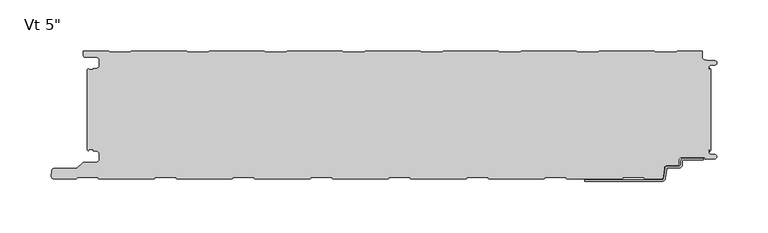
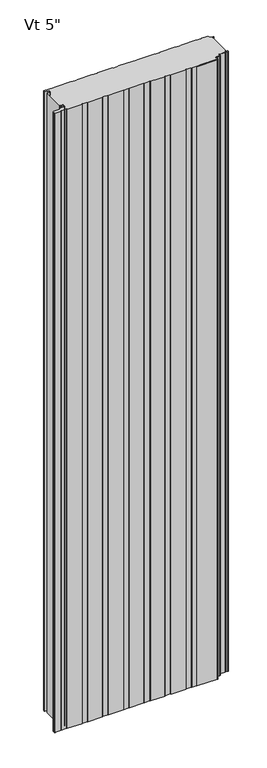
"""IFC4 building model written with IfcOpenShell, lengths in millimetres: plate geometry."""

import ifcopenshell
import ifcopenshell.guid

model = None  # the IFC model being written
_history = None  # IfcOwnerHistory: only IFC2X3 demands one
_inside = {}  # id of a spatial element -> (the spatial element, [elements in it])
_under = {}  # id of a project, library or spatial element -> (it, [spatial elements below it])
_declared = {}  # id of a project -> (the project, [libraries it declares])
_typed = {}  # id of a type object -> (the type object, [elements of that type])
_made_of = {}  # id of a material, layer set ... -> (it, [elements and type objects made of it])


def new_model(schema):
    """Start an empty IFC model of exactly this schema.

    Asked for "IFC4X3", IfcOpenShell would pick the latest addendum, in which some entities
    have other attributes; the version numbers below select the first issue.
    IFC2X3 requires an IfcOwnerHistory on every rooted entity: one is made here for all.
    """
    global model, _history
    if schema == "IFC4X3":
        model = ifcopenshell.file(schema_version=(4, 3, 0, 0))
    else:
        model = ifcopenshell.file(schema=schema)
    _inside.clear()
    _under.clear()
    _declared.clear()
    _typed.clear()
    _made_of.clear()
    _history = None
    if model.schema == "IFC2X3":
        org = make("IfcOrganization", Name="unknown")
        user = make(
            "IfcPersonAndOrganization",
            ThePerson=make("IfcPerson", FamilyName="unknown"),
            TheOrganization=org,
        )
        app = make(
            "IfcApplication",
            ApplicationDeveloper=org,
            Version="unknown",
            ApplicationFullName="unknown",
            ApplicationIdentifier="unknown",
        )
        _history = make(
            "IfcOwnerHistory",
            OwningUser=user,
            OwningApplication=app,
            ChangeAction="ADDED",
            CreationDate=0,
        )
    return model


def make(cls, **values):
    """One entity of the class cls with the attributes given. An attribute that is None is left unset."""
    return model.create_entity(
        cls, **{name: value for name, value in values.items() if value is not None}
    )


def rooted(cls, **values):
    """An entity with a GlobalId (a new one), such as an element, a storey or a relation."""
    return make(cls, GlobalId=ifcopenshell.guid.new(), OwnerHistory=_history, **values)


def si_unit(unit_type, name, prefix=None):
    """IfcSIUnit, for example si_unit("LENGTHUNIT", "METRE", prefix="MILLI")."""
    return make("IfcSIUnit", UnitType=unit_type, Prefix=prefix, Name=name)


def assignment(units):
    """IfcUnitAssignment: the units of a project."""
    return None if units is None else make("IfcUnitAssignment", Units=units)


def point(xyz):
    """IfcCartesianPoint."""
    return None if xyz is None else make("IfcCartesianPoint", Coordinates=xyz)


def direction(xyz):
    """IfcDirection."""
    return None if xyz is None else make("IfcDirection", DirectionRatios=xyz)


def frame(location, z_axis=None, x_axis=None):
    """IfcAxis2Placement3D, a coordinate frame: its origin and axes. An axis left out is left unset."""
    return make(
        "IfcAxis2Placement3D",
        Location=point(location),
        Axis=direction(z_axis),
        RefDirection=direction(x_axis),
    )


def frame_2d(location, x_axis=None):
    """IfcAxis2Placement2D, a coordinate frame in the plane: its origin and x axis."""
    return make(
        "IfcAxis2Placement2D", Location=point(location), RefDirection=direction(x_axis)
    )


def origin():
    """The frame at (0, 0, 0) with its axes left unset."""
    return frame((0.0, 0.0, 0.0))


def origin_with_axes():
    """The frame at (0, 0, 0) with the z axis (0, 0, 1) and the x axis (1, 0, 0) written out."""
    return frame((0.0, 0.0, 0.0), z_axis=(0.0, 0.0, 1.0), x_axis=(1.0, 0.0, 0.0))


def place(relative_to, where):
    """IfcLocalPlacement: puts the frame where relative to a parent placement (None: the world)."""
    return make(
        "IfcLocalPlacement", PlacementRelTo=relative_to, RelativePlacement=where
    )


def context(
    kind, dimensions, precision=None, world=None, true_north=None, identifier=None
):
    """IfcGeometricRepresentationContext, for example the 3D "Model" context."""
    return make(
        "IfcGeometricRepresentationContext",
        ContextIdentifier=identifier,
        ContextType=kind,
        CoordinateSpaceDimension=dimensions,
        Precision=precision,
        WorldCoordinateSystem=world,
        TrueNorth=true_north,
    )


def project(units=None, contexts=None):
    """IfcProject with its units and contexts."""
    return rooted(
        "IfcProject",
        Name="project",
        RepresentationContexts=contexts,
        UnitsInContext=assignment(units),
    )


def spatial(cls, under=None, at=None, **own):
    """A site, building, storey or space (cls), placed at a placement, below another one or the project."""
    s = rooted(cls, ObjectPlacement=at, **own)
    if under is not None:
        _under.setdefault(under.id(), (under, []))[1].append(s)
    return s


def polyline(points):
    """IfcPolyline through the points."""
    return make("IfcPolyline", Points=[point(p) for p in points])


def circle_curve(where, radius):
    """IfcCircle in the frame where."""
    return make("IfcCircle", Position=where, Radius=radius)


def trimmed(basis, trim1, trim2, sense, master):
    """IfcTrimmedCurve: the piece of a basis curve between two trims."""
    return make(
        "IfcTrimmedCurve",
        BasisCurve=basis,
        Trim1=trim1,
        Trim2=trim2,
        SenseAgreement=sense,
        MasterRepresentation=master,
    )


def segment(curve, same_sense, transition):
    """IfcCompositeCurveSegment."""
    return make(
        "IfcCompositeCurveSegment",
        Transition=transition,
        SameSense=same_sense,
        ParentCurve=curve,
    )


def composite_curve(segments, self_intersect=None):
    """IfcCompositeCurve: segments joined end to end."""
    return make("IfcCompositeCurve", Segments=segments, SelfIntersect=self_intersect)


def outline(outer, holes=None, kind="AREA"):
    """IfcArbitraryClosedProfileDef: a profile drawn as a closed curve; with holes, ...WithVoids."""
    if holes is None:
        return make("IfcArbitraryClosedProfileDef", ProfileType=kind, OuterCurve=outer)
    return make(
        "IfcArbitraryProfileDefWithVoids",
        ProfileType=kind,
        OuterCurve=outer,
        InnerCurves=holes,
    )


def extrude(swept, where, along, depth):
    """IfcExtrudedAreaSolid: the profile swept, set in the frame where, extruded along a direction by depth."""
    return make(
        "IfcExtrudedAreaSolid",
        SweptArea=swept,
        Position=where,
        ExtrudedDirection=direction(along),
        Depth=depth,
    )


def shape(context_of_items, identifier, shape_type, items):
    """IfcShapeRepresentation: the items that make up one representation, for example the "Body"."""
    return make(
        "IfcShapeRepresentation",
        ContextOfItems=context_of_items,
        RepresentationIdentifier=identifier,
        RepresentationType=shape_type,
        Items=items,
    )


def source(mapping_origin, context_of_items, identifier, shape_type, items):
    """IfcRepresentationMap: a shape defined once, which mapped items show again and again."""
    return make(
        "IfcRepresentationMap",
        MappingOrigin=mapping_origin,
        MappedRepresentation=shape(context_of_items, identifier, shape_type, items),
    )


def transform(
    local_origin,
    x_axis=None,
    y_axis=None,
    z_axis=None,
    scale=None,
    scale2=None,
    scale3=None,
    uniform=True,
):
    """IfcCartesianTransformationOperator3D, or its non-uniform kind. x_axis, y_axis, z_axis: its Axis1, 2, 3."""
    if uniform:
        return make(
            "IfcCartesianTransformationOperator3D",
            Axis1=direction(x_axis),
            Axis2=direction(y_axis),
            LocalOrigin=point(local_origin),
            Scale=scale,
            Axis3=direction(z_axis),
        )
    return make(
        "IfcCartesianTransformationOperator3DnonUniform",
        Axis1=direction(x_axis),
        Axis2=direction(y_axis),
        LocalOrigin=point(local_origin),
        Scale=scale,
        Axis3=direction(z_axis),
        Scale2=scale2,
        Scale3=scale3,
    )


def mapped(mapping_source, mapping_target):
    """IfcMappedItem: shows the shape of a source again, moved by a transform."""
    return make(
        "IfcMappedItem", MappingSource=mapping_source, MappingTarget=mapping_target
    )


def made_of(thing, what):
    """Note that an element or type object is made of a material, layer set ...; save() writes the relation."""
    if what is not None:
        _made_of.setdefault(what.id(), (what, []))[1].append(thing)
    return thing


def element(
    cls,
    number,
    at=None,
    inside=None,
    cuts=None,
    type_object=None,
    material=None,
    context=None,
    identifier="Body",
    shape_type=None,
    held_by="IfcProductDefinitionShape",
    body=None,
    shapes=None,
    **own,
):
    """One element of the class cls, such as IfcWall. Its Tag is "e" and its number.

    at: its placement. inside: the storey or other place that contains it. cuts: it is an
    opening in that element (IfcRelVoidsElement). A single representation is given by context,
    identifier, shape_type and body (its items); several are given by shapes. held_by: the class
    of the entity that holds the representations. save() writes the other relations.
    """
    e = rooted(cls, Tag="e%d" % number, ObjectPlacement=at, **own)
    if body is not None:
        shapes = [shape(context, identifier, shape_type, body)]
    if shapes is not None:
        e.Representation = make(held_by, Representations=shapes)
    if inside is not None:
        _inside.setdefault(inside.id(), (inside, []))[1].append(e)
    if cuts is not None:
        rooted(
            "IfcRelVoidsElement", RelatingBuildingElement=cuts, RelatedOpeningElement=e
        )
    if type_object is not None:
        _typed.setdefault(type_object.id(), (type_object, []))[1].append(e)
    return made_of(e, material)


def aggregate(whole, parts):
    """IfcRelAggregates: a whole, such as a stair, and the parts it consists of."""
    return rooted("IfcRelAggregates", RelatingObject=whole, RelatedObjects=parts)


def save(model, path):
    """Write the relations noted so far, then the file.

    IfcRelAggregates (storeys below a building ...), IfcRelContainedInSpatialStructure (elements
    in a storey), IfcRelDefinesByType, IfcRelAssociatesMaterial and IfcRelDeclares: one each for
    every whole, place, type object, material and project.
    """
    for whole, parts in _under.values():
        aggregate(whole, parts)
    for where, things in _inside.values():
        rooted(
            "IfcRelContainedInSpatialStructure",
            RelatedElements=things,
            RelatingStructure=where,
        )
    for kind, things in _typed.values():
        rooted("IfcRelDefinesByType", RelatedObjects=things, RelatingType=kind)
    for what, things in _made_of.values():
        rooted("IfcRelAssociatesMaterial", RelatedObjects=things, RelatingMaterial=what)
    for by, libraries in _declared.values():
        rooted("IfcRelDeclares", RelatingContext=by, RelatedDefinitions=libraries)
    model.write(path)


def plane_surface(at):
    """IfcPlane: the flat surface through the origin of the frame at, square to its z axis."""
    return make("IfcPlane", Position=at)


def cylinder_surface(at, radius):
    """IfcCylindricalSurface: all points at the distance radius from the z axis of the frame at."""
    return make("IfcCylindricalSurface", Position=at, Radius=radius)


def revolved_surface(curve, axis_point, axis_direction):
    """IfcSurfaceOfRevolution: the curve turned about the line through axis_point along axis_direction."""
    return make(
        "IfcSurfaceOfRevolution",
        SweptCurve=make("IfcArbitraryOpenProfileDef", ProfileType="CURVE", Curve=curve),
        AxisPosition=make("IfcAxis1Placement", Location=point(axis_point), Axis=direction(axis_direction)),
    )


def advanced_brep(points, edges, surfaces, faces):
    """IfcAdvancedBrep: a solid bounded by faces that lie on surfaces and meet in shared edges.

    An edge is (start, end): straight between two places in points (the first is 0);
    or (start, end, curve); or (start, end, curve, False) where it runs against its curve.
    A face is (place in surfaces, loops), or (place, loops, False) where it looks against
    its surface's normal. A loop lists edges by number (the first is 1), with a minus sign
    where the edge is run from its end to its start. The first loop is the outer one.
    """
    corners = [point(p) for p in points]
    vertices = [make("IfcVertexPoint", VertexGeometry=c) for c in corners]
    made = []
    for start, end, *more in edges:
        made.append(
            make(
                "IfcEdgeCurve",
                EdgeStart=vertices[start],
                EdgeEnd=vertices[end],
                EdgeGeometry=more[0] if more else make("IfcPolyline", Points=[corners[start], corners[end]]),
                SameSense=more[1] if len(more) > 1 else True,
            )
        )
    hull = []
    for where, loops, *sense in faces:
        bounds = []
        for j, loop in enumerate(loops):
            ring = [make("IfcOrientedEdge", EdgeElement=made[abs(k) - 1], Orientation=k > 0) for k in loop]
            bounds.append(
                make(
                    "IfcFaceOuterBound" if j == 0 else "IfcFaceBound",
                    Bound=make("IfcEdgeLoop", EdgeList=ring),
                    Orientation=True,
                )
            )
        hull.append(make("IfcAdvancedFace", Bounds=bounds, FaceSurface=surfaces[where], SameSense=sense[0] if sense else True))
    return make("IfcAdvancedBrep", Outer=make("IfcClosedShell", CfsFaces=hull))


def plate_12433003(model_context):
    return source(origin(), model_context, "Body", "SolidModel", [
        advanced_brep(
        [(278.4543181, -105.9008679, 0.0), (297.1995181, -105.9008679, 0.0), (297.1995181, -107.4248679, 0.0), (278.4543181, -107.4248679, 0.0), (276.9303181, -108.9488679, 0.0), (276.9303181, -112.0476679, 0.0), (273.4759181, -115.5020679, 0.0), (262.2633607, -115.5020679, 0.0), (261.5042604, -116.1976552, 0.0), (260.3094328, -125.7416507, 0.0), (257.2730313, -128.524, 0.0), (181.7057181, -128.5360323, 0.0), (181.7057181, -127.0, 0.0), (257.2730313, -127.0, 0.0), (258.7912321, -125.6088254, 0.0), (259.9860597, -116.0648299, 0.0), (262.2633607, -113.9780679, 0.0), (273.4759181, -113.9780679, 0.0), (275.4063181, -112.0476679, 0.0), (275.4063181, -108.9488679, 0.0), (278.4543181, -105.9008679, 2400.0), (275.4063181, -108.9488679, 2400.0), (275.4063181, -112.0476679, 2400.0), (273.4759181, -113.9780679, 2400.0), (262.2633607, -113.9780679, 2400.0), (259.9860597, -116.0648299, 2400.0), (258.7912321, -125.6088254, 2400.0), (257.2730313, -127.0, 2400.0), (181.7057181, -127.0, 2400.0), (181.7057181, -128.5360323, 2400.0), (257.2730313, -128.5360323, 2400.0), (260.3094328, -125.7416507, 2400.0), (261.5042604, -116.1976552, 2400.0), (262.2633607, -115.5020679, 2400.0), (273.4759181, -115.5020679, 2400.0), (276.9303181, -112.0476679, 2400.0), (276.9303181, -108.9488679, 2400.0), (278.4543181, -107.4248679, 2400.0), (297.1995181, -107.4248679, 2400.0), (297.1995181, -105.9008679, 2400.0)],
        [
            (0, 1),
            (1, 2),
            (2, 3),
            (3, 4, circle_curve(frame((278.4543181, -108.9488679, 0.0), z_axis=(0.0, 0.0, 1.0), x_axis=(0.0, 1.0, 0.0)), 1.524)),
            (4, 5),
            (5, 6, circle_curve(frame((273.4759181, -112.0476679, 0.0), z_axis=(0.0, 0.0, -1.0), x_axis=(0.0, 1.0, 0.0)), 3.4544)),
            (6, 7),
            (7, 8, circle_curve(frame((262.2633607, -116.2640679, 0.0), z_axis=(0.0, 0.0, 1.0), x_axis=(0.0, 1.0, 0.0)), 0.762)),
            (8, 9),
            (9, 10, circle_curve(frame((257.2730313, -125.476, 0.0), z_axis=(0.0, 0.0, -1.0), x_axis=(0.0, 1.0, 0.0)), 3.048)),
            (10, 11),
            (11, 12),
            (12, 13),
            (13, 14, circle_curve(frame((257.2730313, -125.476, 0.0), z_axis=(0.0, 0.0, 1.0), x_axis=(0.0, 1.0, 0.0)), 1.524)),
            (14, 15),
            (15, 16, circle_curve(frame((262.2633607, -116.2640679, 0.0), z_axis=(0.0, 0.0, -1.0), x_axis=(0.0, 1.0, 0.0)), 2.286)),
            (16, 17),
            (17, 18, circle_curve(frame((273.4759181, -112.0476679, 0.0), z_axis=(0.0, 0.0, 1.0), x_axis=(0.0, 1.0, 0.0)), 1.9304)),
            (18, 19),
            (19, 0, circle_curve(frame((278.4543181, -108.9488679, 0.0), z_axis=(0.0, 0.0, -1.0), x_axis=(0.0, 1.0, 0.0)), 3.048)),
            (20, 21, circle_curve(frame((278.4543181, -108.9488679, 2400.0), z_axis=(0.0, 0.0, 1.0), x_axis=(0.0, 1.0, 0.0)), 3.048)),
            (21, 22),
            (22, 23, circle_curve(frame((273.4759181, -112.0476679, 2400.0), z_axis=(0.0, 0.0, -1.0), x_axis=(0.0, 1.0, 0.0)), 1.9304)),
            (23, 24),
            (24, 25, circle_curve(frame((262.2633607, -116.2640679, 2400.0), z_axis=(0.0, 0.0, 1.0), x_axis=(0.0, 1.0, 0.0)), 2.286)),
            (25, 26),
            (26, 27, circle_curve(frame((257.2730313, -125.476, 2400.0), z_axis=(0.0, 0.0, -1.0), x_axis=(0.0, 1.0, 0.0)), 1.524)),
            (27, 28),
            (28, 29),
            (29, 30),
            (30, 31, circle_curve(frame((257.2730313, -125.476, 2400.0), z_axis=(0.0, 0.0, 1.0), x_axis=(0.0, 1.0, 0.0)), 3.048)),
            (31, 32),
            (32, 33, circle_curve(frame((262.2633607, -116.2640679, 2400.0), z_axis=(0.0, 0.0, -1.0), x_axis=(0.0, 1.0, 0.0)), 0.762)),
            (33, 34),
            (34, 35, circle_curve(frame((273.4759181, -112.0476679, 2400.0), z_axis=(0.0, 0.0, 1.0), x_axis=(0.0, 1.0, 0.0)), 3.4544)),
            (35, 36),
            (36, 37, circle_curve(frame((278.4543181, -108.9488679, 2400.0), z_axis=(0.0, 0.0, -1.0), x_axis=(0.0, 1.0, 0.0)), 1.524)),
            (37, 38),
            (38, 39),
            (39, 20),
            (2, 38),
            (37, 3),
            (15, 25),
            (24, 16),
            (7, 33),
            (32, 8),
            (5, 35),
            (34, 6),
            (1, 39),
            (36, 4),
            (9, 31),
            (30, 10),
            (13, 27),
            (26, 14),
            (0, 20),
            (12, 28),
            (29, 11),
            (23, 17),
            (18, 22),
            (21, 19),
        ],
        [
            plane_surface(frame((297.1995181, -127.0, 0.0), z_axis=(0.0, 0.0, -1.0), x_axis=(-1.0, 0.0, 0.0))),
            plane_surface(frame((297.1995181, -127.0, 2400.0), z_axis=(0.0, 0.0, 1.0), x_axis=(-1.0, 0.0, 0.0))),
            plane_surface(frame((278.4543181, -107.4248679, 0.0), z_axis=(0.0, -1.0, 0.0), x_axis=(0.0, 0.0, 1.0))),
            cylinder_surface(frame((262.2633607, -116.2640679, 0.0), z_axis=(0.0, 0.0, -1.0), x_axis=(0.0, 1.0, 0.0)), 2.286),
            revolved_surface(polyline([(262.2633607, -115.5020679, 2400.0), (262.2633607, -115.5020679, 0.0)]), (262.2633607, -116.2640679, 0.0), (0.0, 0.0, 1.0)),
            cylinder_surface(frame((273.4759181, -112.0476679, 0.0), z_axis=(0.0, 0.0, -1.0), x_axis=(0.0, 1.0, 0.0)), 3.4544),
            plane_surface(frame((297.1995181, -107.4248679, 0.0), z_axis=(1.0, 0.0, 0.0), x_axis=(0.0, 0.0, 1.0))),
            revolved_surface(polyline([(278.4543181, -107.4248679, 2400.0), (278.4543181, -107.4248679, 0.0)]), (278.4543181, -108.9488679, 0.0), (0.0, 0.0, 1.0)),
            cylinder_surface(frame((257.2730313, -125.476, 0.0), z_axis=(0.0, 0.0, -1.0), x_axis=(0.0, 1.0, 0.0)), 3.048),
            revolved_surface(polyline([(257.2730313, -123.952, 2400.0), (257.2730313, -123.952, 0.0)]), (257.2730313, -125.476, 0.0), (0.0, 0.0, 1.0)),
            plane_surface(frame((297.1995181, -105.9008679, 0.0), z_axis=(0.0, 1.0, 0.0), x_axis=(0.0, 0.0, 1.0))),
            plane_surface(frame((259.9860597, -116.0648299, 0.0), z_axis=(-0.992254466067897, 0.12422187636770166, 0.0), x_axis=(0.0, 0.0, 1.0))),
            plane_surface(frame((257.2730313, -127.0, 0.0), z_axis=(0.0, 1.0, 0.0), x_axis=(0.0, 0.0, 1.0))),
            plane_surface(frame((260.3094328, -125.7416507, 0.0), z_axis=(0.9922544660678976, -0.12422187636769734, 0.0), x_axis=(0.0, 0.0, 1.0))),
            plane_surface(frame((276.9303181, -112.0476679, 0.0), z_axis=(1.0, 0.0, 0.0), x_axis=(0.0, 0.0, 1.0))),
            plane_surface(frame((181.7057181, -128.5360323, 0.0), z_axis=(0.0, -1.0, 0.0), x_axis=(0.0, 0.0, 1.0))),
            plane_surface(frame((181.7057181, -127.0, 0.0), z_axis=(-1.0, 0.0, 0.0), x_axis=(0.0, 0.0, 1.0))),
            plane_surface(frame((273.4759181, -113.9780679, 0.0), z_axis=(0.0, 1.0, 0.0), x_axis=(0.0, 0.0, 1.0))),
            plane_surface(frame((275.4063181, -108.9488679, 0.0), z_axis=(-1.0, 0.0, 0.0), x_axis=(0.0, 0.0, 1.0))),
            plane_surface(frame((262.2633607, -115.5020679, 0.0), z_axis=(0.0, -1.0, 0.0), x_axis=(0.0, 0.0, 1.0))),
            revolved_surface(polyline([(273.4759181, -110.11726789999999, 2400.0), (273.4759181, -110.11726789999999, 0.0)]), (273.4759181, -112.0476679, 0.0), (0.0, 0.0, 1.0)),
            cylinder_surface(frame((278.4543181, -108.9488679, 0.0), z_axis=(0.0, 0.0, -1.0), x_axis=(0.0, 1.0, 0.0)), 3.048),
        ],
        [
            (0, [[1, 2, 3, 4, 5, 6, 7, 8, 9, 10, 11, 12, 13, 14, 15, 16, 17, 18, 19, 20]]),
            (1, [[21, 22, 23, 24, 25, 26, 27, 28, 29, 30, 31, 32, 33, 34, 35, 36, 37, 38, 39, 40]]),
            (2, [[41, -38, 42, -3]]),
            (3, [[43, -25, 44, -16]]),
            (4, [[45, -33, 46, -8]]),
            (5, [[47, -35, 48, -6]]),
            (6, [[49, -39, -41, -2]]),
            (7, [[-42, -37, 50, -4]]),
            (8, [[51, -31, 52, -10]]),
            (9, [[53, -27, 54, -14]]),
            (10, [[55, -40, -49, -1]]),
            (11, [[-54, -26, -43, -15]]),
            (12, [[56, -28, -53, -13]]),
            (13, [[-46, -32, -51, -9]]),
            (14, [[-50, -36, -47, -5]]),
            (15, [[-52, -30, 57, -11]]),
            (16, [[-57, -29, -56, -12]]),
            (17, [[-44, -24, 58, -17]]),
            (18, [[59, -22, 60, -19]]),
            (19, [[-48, -34, -45, -7]]),
            (20, [[-58, -23, -59, -18]]),
            (21, [[-60, -21, -55, -20]]),
        ],
    ),
        extrude(outline(composite_curve([segment(polyline([(-303.7683001, -98.6760161), (-304.8, -97.6443162), (-304.8, -19.0328308), (-303.7686883, -18.0015192)]), True, "CONTINUOUS"), segment(trimmed(circle_curve(frame_2d((-302.7686911, -18.0015133)), 0.9999972), [point((-303.7686883, -18.0015192))], [point((-302.7686911, -19.0015105))], True, "CARTESIAN"), True, "CONTINUOUS"), segment(polyline([(-302.7686911, -19.0015105), (-298.7684875, -19.0015105), (-298.7684875, -18.0015159), (-296.0762777, -18.0015159)]), True, "CONTINUOUS"), segment(trimmed(circle_curve(frame_2d((-296.0762777, -14.7015202)), 3.2999957), [point((-296.0762777, -18.0015159))], [point((-292.776282, -14.7015202))], True, "CARTESIAN"), True, "CONTINUOUS"), segment(polyline([(-292.776282, -14.7015202), (-292.776282, -10.301529)]), True, "CONTINUOUS"), segment(trimmed(circle_curve(frame_2d((-296.0762778, -10.301529)), 3.2999959), [point((-292.776282, -10.301529))], [point((-296.0762778, -7.0015331))], True, "CARTESIAN"), True, "CONTINUOUS"), segment(polyline([(-296.0762778, -7.0015331), (-306.4962564, -7.0015331)]), True, "CONTINUOUS"), segment(trimmed(circle_curve(frame_2d((-306.4962564, -5.2315389)), 1.7699942), [point((-306.4962564, -7.0015331))], [point((-308.2662506, -5.2315389))], False, "CARTESIAN"), True, "CONTINUOUS"), segment(polyline([(-308.2662506, -5.2315389), (-308.2662506, -0.9999916), (-283.765974, -0.9999916), (-282.3803313, -2.2002307), (-263.005165, -2.2002307), (-261.6195321, -1.0), (-207.5661167, -1.0), (-206.1804837, -2.2002307), (-186.8053174, -2.2002307), (-185.4196845, -1.0), (-131.3662691, -1.0), (-129.9806361, -2.2002307), (-110.6054698, -2.2002307), (-109.2198369, -1.0), (-55.1664215, -1.0), (-53.7807885, -2.2002307), (-34.4056222, -2.2002307), (-33.0199893, -1.0), (21.0334261, -1.0), (22.4190591, -2.2002307), (41.7942254, -2.2002307), (43.1798583, -1.0), (97.2332737, -1.0), (98.6189067, -2.2002307), (117.994073, -2.2002307), (119.3797059, -1.0), (173.4331213, -1.0), (174.8187543, -2.2002307), (194.1939206, -2.2002307), (195.5795535, -1.0), (249.6329689, -1.0), (251.0186019, -2.2002307), (270.3937682, -2.2002307), (271.7794011, -1.0), (296.2787013, -1.0), (296.2787013, -6.0026007)]), True, "CONTINUOUS"), segment(trimmed(circle_curve(frame_2d((300.2939817, -5.9867338)), 4.0153117), [point((296.2787013, -6.0026007))], [point((300.1016499, -9.9974365))], True, "CARTESIAN"), True, "CONTINUOUS"), segment(polyline([(300.1016499, -9.9974365), (308.5931719, -10.4046442)]), True, "CONTINUOUS"), segment(trimmed(circle_curve(frame_2d((308.4781032, -12.5552871)), 2.153719), [point((308.5931719, -10.4046442))], [point((308.5921924, -14.7059822))], False, "CARTESIAN"), True, "CONTINUOUS"), segment(polyline([(308.5921924, -14.7059822), (304.4513685, -14.9256429)]), True, "CONTINUOUS"), segment(trimmed(circle_curve(frame_2d((304.5186869, -16.6743462)), 1.7499985), [point((304.4513685, -14.9256429))], [point((302.7686884, -16.6743462))], True, "CARTESIAN"), True, "CONTINUOUS"), segment(polyline([(302.7686884, -16.6743462), (302.7686884, -19.0015288), (303.7686884, -19.0015288), (303.7686884, -17.5871409), (304.8, -18.6184525), (304.8, -98.0586945), (303.7686884, -99.0900061), (303.7686884, -97.5025061), (302.7686884, -97.5025061), (302.7686884, -100.2870527)]), True, "CONTINUOUS"), segment(trimmed(circle_curve(frame_2d((304.6099653, -100.2434917)), 1.8417922), [point((302.7686884, -100.2870527))], [point((304.4977997, -102.0818653))], True, "CARTESIAN"), True, "CONTINUOUS"), segment(polyline([(304.4977997, -102.0818653), (308.5037148, -102.3262802)]), True, "CONTINUOUS"), segment(trimmed(circle_curve(frame_2d((308.4236622, -104.4266291)), 2.1018739), [point((308.5037148, -102.3262802))], [point((308.506811, -106.5268578))], False, "CARTESIAN"), True, "CONTINUOUS"), segment(polyline([(308.506811, -106.5268578), (299.5334028, -106.8821181), (298.3895515, -104.9012703), (277.2091924, -104.9012703)]), True, "CONTINUOUS"), segment(trimmed(circle_curve(frame_2d((277.2091924, -108.9007233)), 3.9994529), [point((277.2091924, -104.9012703))], [point((273.2097394, -108.9007233))], True, "CARTESIAN"), True, "CONTINUOUS"), segment(polyline([(273.2097394, -108.9007233), (273.2097394, -112.0443786)]), True, "CONTINUOUS"), segment(trimmed(circle_curve(frame_2d((272.2583308, -112.0443786)), 0.9514087), [point((273.2097394, -112.0443786))], [point((272.2583308, -112.9957873))], False, "CARTESIAN"), True, "CONTINUOUS"), segment(polyline([(272.2583308, -112.9957873), (262.1653654, -112.9957873)]), True, "CONTINUOUS"), segment(trimmed(circle_curve(frame_2d((262.0396267, -116.0231732)), 3.0299959), [point((262.1653654, -112.9957873))], [point((259.021161, -115.7590902))], True, "CARTESIAN"), True, "CONTINUOUS"), segment(polyline([(259.021161, -115.7590902), (258.2671075, -124.2178029)]), True, "CONTINUOUS"), segment(trimmed(circle_curve(frame_2d((256.3156233, -124.0461194)), 1.9590216), [point((258.2671075, -124.2178029))], [point((256.3156233, -126.0051411))], False, "CARTESIAN"), True, "CONTINUOUS"), segment(polyline([(256.3156233, -126.0051411), (240.2456965, -126.0051411), (239.0403247, -124.7997693), (219.3209122, -124.7997693), (218.1206815, -126.0), (164.0405497, -126.0), (162.840319, -124.7997693), (143.1209065, -124.7997693), (141.9206758, -126.0), (87.840544, -126.0), (86.6403133, -124.7997693), (66.9209008, -124.7997693), (65.7206701, -126.0), (11.6405383, -126.0), (10.4403076, -124.7997693), (-9.2791049, -124.7997693), (-10.4793356, -126.0), (-64.5594674, -126.0), (-65.7596981, -124.7997693), (-85.4791106, -124.7997693), (-86.6793413, -126.0), (-140.7594731, -126.0), (-141.9597038, -124.7997693), (-161.6791163, -124.7997693), (-162.879347, -126.0), (-216.9594787, -126.0), (-218.1597095, -124.7997693), (-237.879122, -124.7997693), (-239.0793527, -126.0), (-293.1594844, -126.0), (-294.3597151, -124.7997693), (-314.0791277, -124.7997693), (-315.2790962, -125.9997378), (-337.2521176, -125.9997378)]), True, "CONTINUOUS"), segment(trimmed(circle_curve(frame_2d((-337.2521176, -123.4294985)), 2.5702393), [point((-337.2521176, -125.9997378))], [point((-339.8125699, -123.2054129))], False, "CARTESIAN"), True, "CONTINUOUS"), segment(polyline([(-339.8125699, -123.2054129), (-339.3765709, -118.223592)]), True, "CONTINUOUS"), segment(trimmed(circle_curve(frame_2d((-336.7198392, -118.7049826)), 2.6999926), [point((-339.3765709, -118.223592))], [point((-336.7198392, -116.00499))], False, "CARTESIAN"), True, "CONTINUOUS"), segment(polyline([(-336.7198392, -116.00499), (-314.6247096, -116.00499), (-309.1226385, -110.5029189)]), True, "CONTINUOUS"), segment(trimmed(circle_curve(frame_2d((-307.9205608, -111.7049966)), 1.6999946), [point((-309.1226385, -110.5029189))], [point((-307.9205608, -110.005002))], False, "CARTESIAN"), True, "CONTINUOUS"), segment(polyline([(-307.9205608, -110.005002), (-296.1096717, -110.005002)]), True, "CONTINUOUS"), segment(trimmed(circle_curve(frame_2d((-296.1096717, -106.6550067)), 3.3499953), [point((-296.1096717, -110.005002))], [point((-292.7596764, -106.6550067))], True, "CARTESIAN"), True, "CONTINUOUS"), segment(polyline([(-292.7596764, -106.6550067), (-292.7596764, -102.2550155)]), True, "CONTINUOUS"), segment(trimmed(circle_curve(frame_2d((-296.1096717, -102.2550155)), 3.3499953), [point((-292.7596764, -102.2550155))], [point((-296.1096717, -98.9050202))], True, "CARTESIAN"), True, "CONTINUOUS"), segment(polyline([(-296.1096717, -98.9050202), (-298.8087827, -98.9050202), (-298.8087827, -97.5065413), (-302.5671761, -97.5065413)]), True, "CONTINUOUS"), segment(trimmed(circle_curve(frame_2d((-302.5686908, -98.706538)), 1.1999976), [point((-302.5671761, -97.5065413))], [point((-303.7683001, -98.6760161))], True, "CARTESIAN"), True, "CONTINUOUS")], self_intersect=False)), origin_with_axes(), (0.0, 0.0, 1.0), 2400.0),
    ])


if __name__ == "__main__":
    model = new_model("IFC4")
    model_context = context("Model", 3, world=origin())
    ifc_project = project(units=[si_unit("LENGTHUNIT", "METRE", prefix="MILLI")], contexts=[model_context])
    site = spatial("IfcSite", under=ifc_project)
    building = spatial("IfcBuilding", under=site)
    placement = place(None, origin())
    plate_shape = plate_12433003(model_context)
    element("IfcPlate", 1, ObjectType="KIP-24-Karrier-KP-R19-CP-Vt-SL3-8in_SL : Vt 5\"", at=placement, inside=building, context=model_context, shape_type="MappedRepresentation", body=[
        mapped(plate_shape, transform((0.0, 0.0, 0.0), x_axis=(1.0, 0.0, 0.0), y_axis=(0.0, 1.0, 0.0), z_axis=(0.0, 0.0, 1.0))),
    ])
    save(model, "model.ifc")
